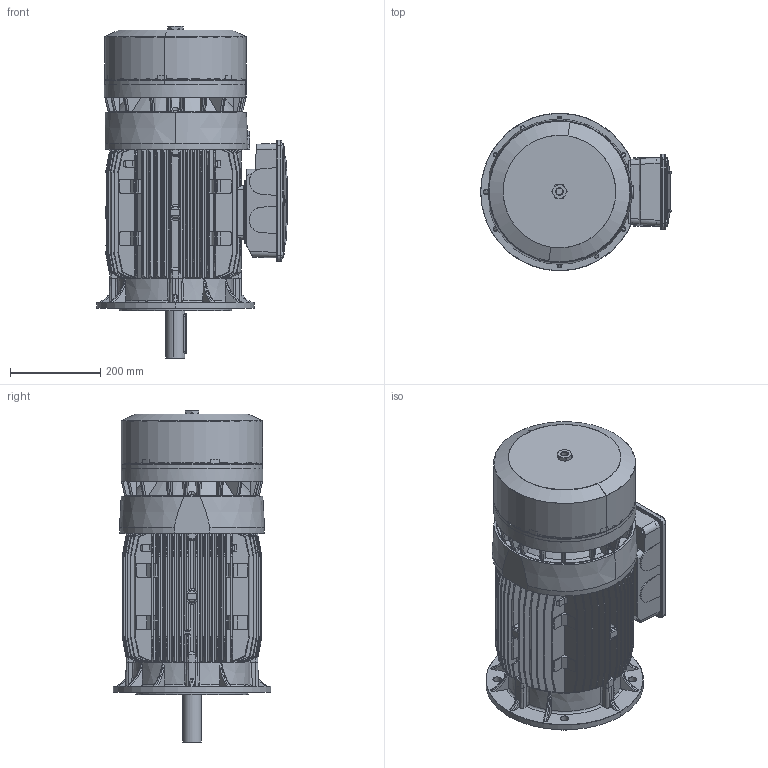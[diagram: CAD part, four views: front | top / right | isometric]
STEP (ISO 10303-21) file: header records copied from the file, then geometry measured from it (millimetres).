
FILE_DESCRIPTION (( 'STEP AP214' ), '1' );
FILE_NAME ('BA 160 M B5.STEP', '2017-10-13T15:28:48', ( '' ), ( '' ), 'SwSTEP 2.0', 'SolidWorks 2017', '' );
FILE_SCHEMA (( 'AUTOMOTIVE_DESIGN' ));
Length unit declared in the file: millimetre
Products named in the file (16): Guarnizione Basetta BA 160-180 - 200 - D6BB0000; Vite Testa Bombata M6x20; Guarnizione Coperchio Sc. Mor. BA 160-180-200 - D6BA0100; Coperchio Scatola Morsettiera Doppia BA 160 - 180 - 200 - D6A60099; Scatola morsettiera himmel; O-ring Freno BA 160; Convogliatore con pista di attrito BA 160 P2 -  D6A80099; Chiavetta 160; Scudo a flangia B5 Fi 350 BA 160 - KM; Vite a Testa Esagona 20 MB gr. 132-200 - DGAS0094; Scudo Lato Freno BA 160 P1 - D6A90399; Cuffia serie BA 160; Albero BA 160 M; Carcassa 160 M B5; BA 160 M B5; Scatola Morsettiera Doppia BA 160 - 180 - 200 - Completa
Assembly tree (20 placements, depth 3):
  BA 160 M B5
    Carcassa 160 M B5
    Albero BA 160 M
    Cuffia serie BA 160
    Scudo Lato Freno BA 160 P1 - D6A90399
    Vite a Testa Esagona 20 MB gr. 132-200 - DGAS0094
    Scudo a flangia B5 Fi 350 BA 160 - KM
    Chiavetta 160
    Convogliatore con pista di attrito BA 160 P2 -  D6A80099
    O-ring Freno BA 160
    Scatola Morsettiera Doppia BA 160 - 180 - 200 - Completa
      Scatola morsettiera himmel
      Coperchio Scatola Morsettiera Doppia BA 160 - 180 - 200 - D6A60099
      Guarnizione Coperchio Sc. Mor. BA 160-180-200 - D6BA0100
      Vite Testa Bombata M6x20  x6
      Guarnizione Basetta BA 160-180 - 200 - D6BB0000
Bounding box: 423.49 x 350 x 736.61 mm (x, y, z)
Volume: 10396738.7 mm3; surface area: 3160494.7 mm2
Topology: 19 solids, 19 shells, 3915 faces, 10703 edges, 6694 vertices
Faces by surface type: cylinder 1272, plane 1031, bspline 697, cone 460, torus 413, sphere 42
Entity records: 211943 total; most frequent: CARTESIAN_POINT 126496, ORIENTED_EDGE 19218, DIRECTION 15228, EDGE_CURVE 9609, VERTEX_POINT 6064, AXIS2_PLACEMENT_3D 6008, EDGE_LOOP 3827, FACE_OUTER_BOUND 3590
